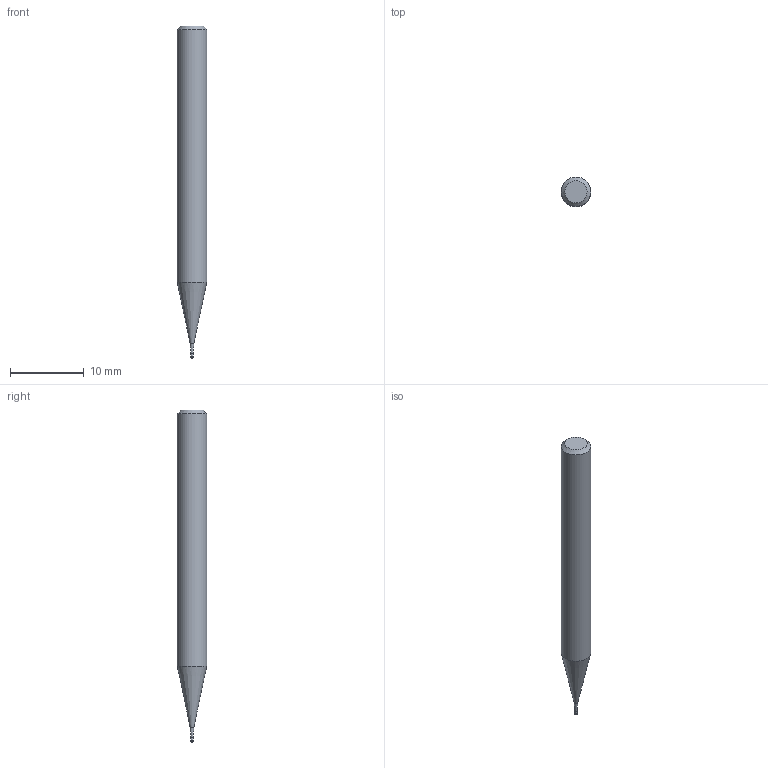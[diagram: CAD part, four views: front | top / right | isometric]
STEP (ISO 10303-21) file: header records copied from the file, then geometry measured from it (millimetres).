
FILE_DESCRIPTION((''),'2;1');
FILE_NAME('C:\Users\nsx150\AppData\Local\Temp\Mastercam 2021\YKS1SUSFZB\TEMP.step','2025-06-23T14:03:11',(''),(''),'STEP Write','Mastercam 2021 ... CNC Software, Inc.','');
FILE_SCHEMA(('AUTOMOTIVE_DESIGN'));
Length unit declared in the file: millimetre
Products named in the file (1): None
Bounding box: 4 x 4 x 45 mm (x, y, z)
Volume: 474.7 mm3; surface area: 507.1 mm2
Topology: 2 solids, 2 shells, 11 faces, 16 edges, 9 vertices
Faces by surface type: plane 4, cylinder 3, cone 3, torus 1
Full cylindrical faces by diameter (mm): 0.285 x1, 0.3 x1, 4 x1
Entity records: 253 total; most frequent: DIRECTION 44, CARTESIAN_POINT 31, AXIS2_PLACEMENT_3D 22, ORIENTED_EDGE 18, EDGE_LOOP 18, STYLED_ITEM 14, ADVANCED_FACE 11, FACE_BOUND 11
